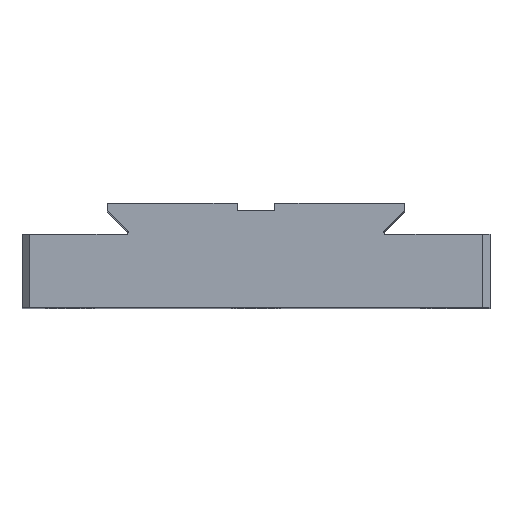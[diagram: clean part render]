
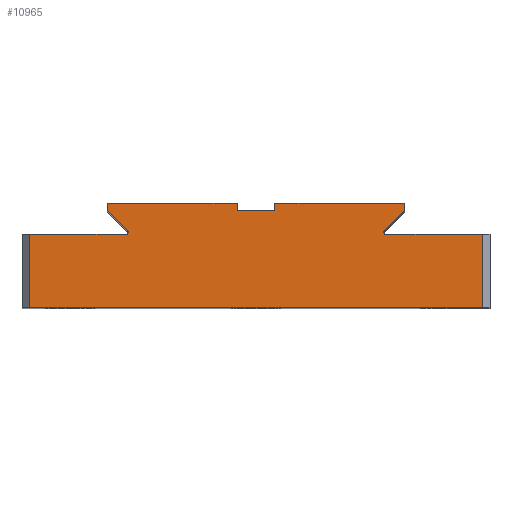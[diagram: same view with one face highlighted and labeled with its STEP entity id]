
A CAD part, top view. The second image highlights one B-rep face of the part: STEP entity #10965.
In plain terms, the highlighted planar face has unit normal (0, 0, 1).
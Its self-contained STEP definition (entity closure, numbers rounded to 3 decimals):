
#2=DIRECTION('',(0.,1.,0.));
#3=VECTOR('',#2,9.83);
#4=CARTESIAN_POINT('',(8.809,90.674,164.678));
#5=LINE('',#4,#3);
#6=DIRECTION('',(0.,1.,0.));
#7=VECTOR('',#6,9.83);
#8=CARTESIAN_POINT('',(-52.191,90.674,164.678));
#9=LINE('',#8,#7);
#10=DIRECTION('',(0.707,-0.707,0.));
#11=VECTOR('',#10,3.841);
#12=CARTESIAN_POINT('',(-41.693,103.654,164.678));
#13=LINE('',#12,#11);
#14=DIRECTION('',(0.707,0.707,0.));
#15=VECTOR('',#14,3.841);
#16=CARTESIAN_POINT('',(-4.404,100.938,164.678));
#17=LINE('',#16,#15);
#18=CARTESIAN_POINT('',(-4.224,100.758,164.678));
#19=DIRECTION('',(0.,0.,-1.));
#20=DIRECTION('',(0.,-1.,0.));
#21=AXIS2_PLACEMENT_3D('',#18,#19,#20);
#35=DIRECTION('',(-1.,0.,0.));
#36=VECTOR('',#35,13.034);
#37=CARTESIAN_POINT('',(8.809,100.504,164.678));
#38=LINE('',#37,#36);
#51=DIRECTION('',(-1.,0.,0.));
#52=VECTOR('',#51,13.034);
#53=CARTESIAN_POINT('',(-39.157,100.504,164.678));
#54=LINE('',#53,#52);
#120=DIRECTION('',(0.,-1.,0.));
#121=VECTOR('',#120,1.016);
#122=CARTESIAN_POINT('',(-1.688,104.67,164.678));
#123=LINE('',#122,#121);
#136=DIRECTION('',(1.,0.,0.));
#137=VECTOR('',#136,17.463);
#138=CARTESIAN_POINT('',(-19.151,104.67,164.678));
#139=LINE('',#138,#137);
#140=DIRECTION('',(0.,1.,0.));
#141=VECTOR('',#140,1.016);
#142=CARTESIAN_POINT('',(-19.151,103.654,164.678));
#143=LINE('',#142,#141);
#148=DIRECTION('',(1.,0.,0.));
#149=VECTOR('',#148,5.08);
#150=CARTESIAN_POINT('',(-24.231,103.654,164.678));
#151=LINE('',#150,#149);
#156=DIRECTION('',(0.,-1.,0.));
#157=VECTOR('',#156,1.016);
#158=CARTESIAN_POINT('',(-24.231,104.67,164.678));
#159=LINE('',#158,#157);
#164=DIRECTION('',(1.,0.,0.));
#165=VECTOR('',#164,17.463);
#166=CARTESIAN_POINT('',(-41.693,104.67,164.678));
#167=LINE('',#166,#165);
#168=DIRECTION('',(0.,1.,0.));
#169=VECTOR('',#168,1.016);
#170=CARTESIAN_POINT('',(-41.693,103.654,164.678));
#171=LINE('',#170,#169);
#193=CARTESIAN_POINT('',(-39.157,100.758,164.678));
#194=DIRECTION('',(0.,0.,-1.));
#195=DIRECTION('',(0.707,0.707,0.));
#196=AXIS2_PLACEMENT_3D('',#193,#194,#195);
#374=DIRECTION('',(-1.,0.,0.));
#375=VECTOR('',#374,61.);
#376=CARTESIAN_POINT('',(8.809,90.674,164.678));
#377=LINE('',#376,#375);
#10168=CARTESIAN_POINT('',(-41.693,103.654,
164.678));
#10169=CARTESIAN_POINT('',(-38.977,100.938,
164.678));
#10170=VERTEX_POINT('',#10168);
#10171=VERTEX_POINT('',#10169);
#10172=CARTESIAN_POINT('',(-24.231,103.654,
164.678));
#10173=VERTEX_POINT('',#10172);
#10174=CARTESIAN_POINT('',(-24.231,104.67,
164.678));
#10175=VERTEX_POINT('',#10174);
#10176=CARTESIAN_POINT('',(-19.151,103.654,
164.678));
#10177=CARTESIAN_POINT('',(-19.151,104.67,
164.678));
#10178=VERTEX_POINT('',#10176);
#10179=VERTEX_POINT('',#10177);
#10180=CARTESIAN_POINT('',(-41.693,104.67,
164.678));
#10181=VERTEX_POINT('',#10180);
#10182=CARTESIAN_POINT('',(-4.404,100.938,
164.678));
#10183=CARTESIAN_POINT('',(-1.688,103.654,
164.678));
#10184=VERTEX_POINT('',#10182);
#10185=VERTEX_POINT('',#10183);
#10186=CARTESIAN_POINT('',(-1.688,104.67,
164.678));
#10187=VERTEX_POINT('',#10186);
#10188=CARTESIAN_POINT('',(-39.157,100.504,
164.678));
#10189=VERTEX_POINT('',#10188);
#10190=CARTESIAN_POINT('',(-4.224,100.504,
164.678));
#10191=VERTEX_POINT('',#10190);
#10208=CARTESIAN_POINT('',(8.809,100.504,164.678));
#10210=VERTEX_POINT('',#10208);
#10214=CARTESIAN_POINT('',(8.809,90.674,164.678));
#10215=VERTEX_POINT('',#10214);
#10217=CARTESIAN_POINT('',(-52.191,100.504,
164.678));
#10219=VERTEX_POINT('',#10217);
#10220=CARTESIAN_POINT('',(-52.191,90.674,
164.678));
#10221=VERTEX_POINT('',#10220);
#10926=CARTESIAN_POINT('',(9.809,100.504,164.678));
#10927=DIRECTION('',(0.,0.,1.));
#10928=DIRECTION('',(-1.,0.,0.));
#10929=AXIS2_PLACEMENT_3D('',#10926,#10927,#10928);
#10930=PLANE('',#10929);
#10932=ORIENTED_EDGE('',*,*,#10931,.F.);
#10934=ORIENTED_EDGE('',*,*,#10933,.T.);
#10936=ORIENTED_EDGE('',*,*,#10935,.T.);
#10938=ORIENTED_EDGE('',*,*,#10937,.F.);
#10940=ORIENTED_EDGE('',*,*,#10939,.F.);
#10942=ORIENTED_EDGE('',*,*,#10941,.F.);
#10944=ORIENTED_EDGE('',*,*,#10943,.T.);
#10946=ORIENTED_EDGE('',*,*,#10945,.T.);
#10948=ORIENTED_EDGE('',*,*,#10947,.T.);
#10950=ORIENTED_EDGE('',*,*,#10949,.T.);
#10952=ORIENTED_EDGE('',*,*,#10951,.T.);
#10954=ORIENTED_EDGE('',*,*,#10953,.T.);
#10956=ORIENTED_EDGE('',*,*,#10955,.T.);
#10958=ORIENTED_EDGE('',*,*,#10957,.F.);
#10960=ORIENTED_EDGE('',*,*,#10959,.F.);
#10962=ORIENTED_EDGE('',*,*,#10961,.F.);
#10963=EDGE_LOOP('',(#10932,#10934,#10936,#10938,#10940,#10942,#10944,#10946,
#10948,#10950,#10952,#10954,#10956,#10958,#10960,#10962));
#10964=FACE_OUTER_BOUND('',#10963,.F.);
#10965=ADVANCED_FACE('',(#10964),#10930,.T.);
#22=CIRCLE('',#21,0.254);
#197=CIRCLE('',#196,0.254);
#10931=EDGE_CURVE('',#10215,#10210,#5,.T.);
#10933=EDGE_CURVE('',#10215,#10221,#377,.T.);
#10935=EDGE_CURVE('',#10221,#10219,#9,.T.);
#10937=EDGE_CURVE('',#10189,#10219,#54,.T.);
#10939=EDGE_CURVE('',#10171,#10189,#197,.T.);
#10941=EDGE_CURVE('',#10170,#10171,#13,.T.);
#10943=EDGE_CURVE('',#10170,#10181,#171,.T.);
#10945=EDGE_CURVE('',#10181,#10175,#167,.T.);
#10947=EDGE_CURVE('',#10175,#10173,#159,.T.);
#10949=EDGE_CURVE('',#10173,#10178,#151,.T.);
#10951=EDGE_CURVE('',#10178,#10179,#143,.T.);
#10953=EDGE_CURVE('',#10179,#10187,#139,.T.);
#10955=EDGE_CURVE('',#10187,#10185,#123,.T.);
#10957=EDGE_CURVE('',#10184,#10185,#17,.T.);
#10959=EDGE_CURVE('',#10191,#10184,#22,.T.);
#10961=EDGE_CURVE('',#10210,#10191,#38,.T.);
